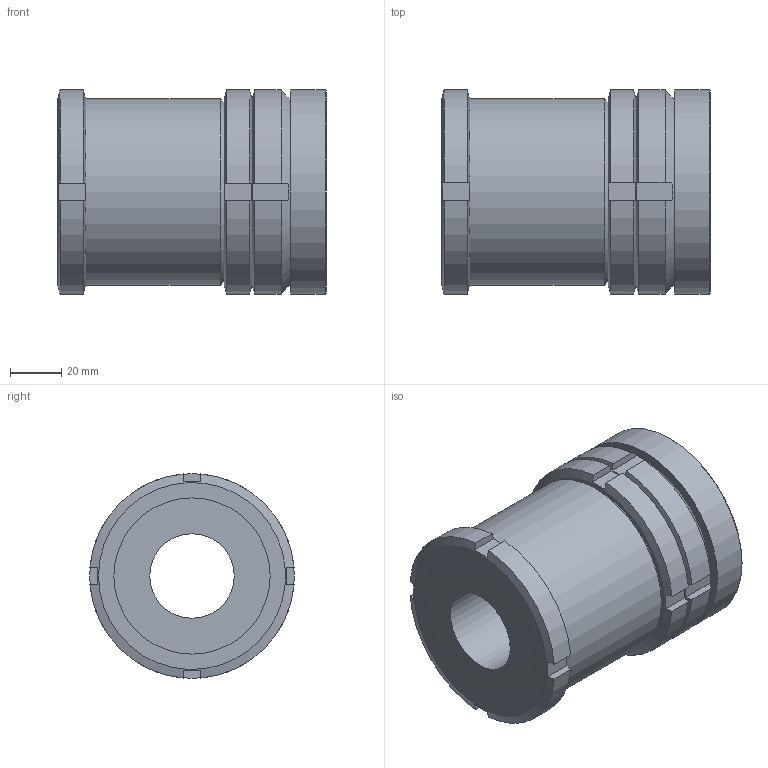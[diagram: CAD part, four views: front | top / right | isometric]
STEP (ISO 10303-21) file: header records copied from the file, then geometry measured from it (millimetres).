
FILE_DESCRIPTION( ( 'STEP AP203' ), '1' );
FILE_NAME( 'C:/Temp/Ganter_Step_05_03_2020/data/3_2/gn350_5/gn350_5_ni/Stainless Steel-Levelling set GN 350.5-80-33-105-NI (0-0).stp', '2020-03-13T05:29:00', ( 'License CC BY-ND 4.0' ), ( 'CADENAS' ), ' ', 'PARTsolutions', ' ' );
FILE_SCHEMA( ( 'CONFIG_CONTROL_DESIGN' ) );
Length unit declared in the file: millimetre
Products named in the file (5): Stainless Steel-Levelling set GN 350.5-80-33-105-NI (0-0); _Levelling set GN 350.5-80-33-105-ST-G; _Levelling set GN 350.5-80-33-105-ST-K; _Levelling set GN 350.5-80-33-105-ST-P(0); _Levelling set GN 350.5-80-33-67-ST-KM
Assembly tree (4 placements, depth 2):
  Stainless Steel-Levelling set GN 350.5-80-33-105-NI (0-0)
    _Levelling set GN 350.5-80-33-105-ST-G
    _Levelling set GN 350.5-80-33-105-ST-K
    _Levelling set GN 350.5-80-33-105-ST-P(0)
    _Levelling set GN 350.5-80-33-67-ST-KM
Bounding box: 105 x 80 x 80 mm (x, y, z)
Volume: 379455.9 mm3; surface area: 90262.2 mm2
Topology: 4 solids, 4 shells, 85 faces, 211 edges, 140 vertices
Faces by surface type: plane 50, cylinder 24, cone 9, sphere 2
Full cylindrical faces by diameter (mm): 33 x1, 48 x1, 53.529 x1, 54.5 x1, 57.835 x1, 58.917 x1, 60 x2, 61 x2, 73 x1, 80 x1
Entity records: 2696 total; most frequent: CARTESIAN_POINT 698, DIRECTION 368, ORIENTED_EDGE 356, EDGE_CURVE 178, AXIS2_PLACEMENT_3D 160, VERTEX_POINT 130, EDGE_LOOP 122, FACE_OUTER_BOUND 99
